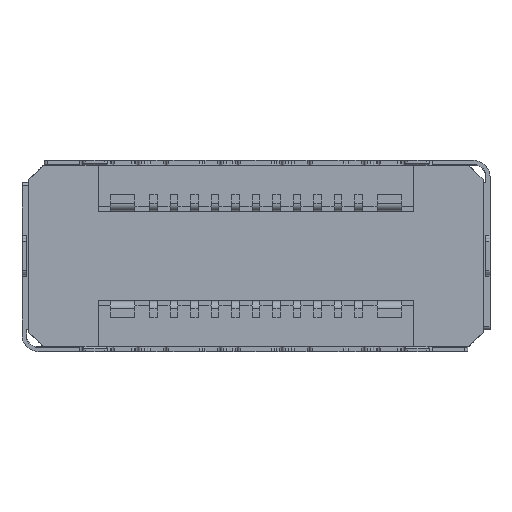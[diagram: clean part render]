
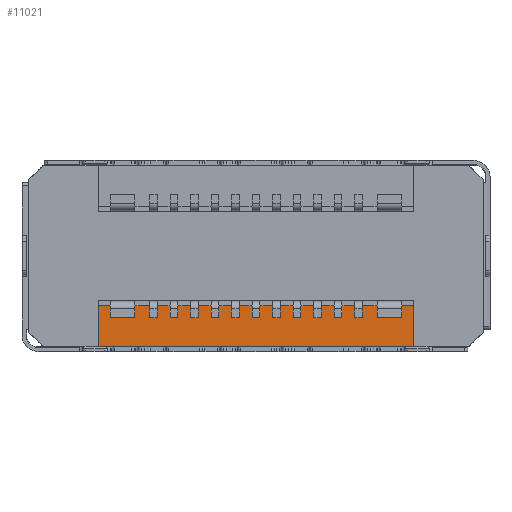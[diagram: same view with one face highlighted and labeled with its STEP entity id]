
A CAD part, front view. The second image highlights one B-rep face of the part: STEP entity #11021.
In plain terms, the highlighted planar face has unit normal (0, -1, 0).
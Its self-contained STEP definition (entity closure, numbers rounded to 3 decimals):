
#1488 = PLANE ( 'NONE',  #10599 ) ;
#2849 = DIRECTION ( 'NONE',  ( -1., 0., 0. ) ) ;
#3117 = EDGE_CURVE ( 'NONE', #7361, #12865, #19937, .T. ) ;
#3611 = LINE ( 'NONE', #13396, #4139 ) ;
#3694 = CARTESIAN_POINT ( 'NONE',  ( 4.44, 0.23, -1. ) ) ;
#3700 = CARTESIAN_POINT ( 'NONE',  ( 4.44, 0.23, -1.55 ) ) ;
#4139 = VECTOR ( 'NONE', #6884, 1000. ) ;
#4305 = CARTESIAN_POINT ( 'NONE',  ( -0.94, 0.23, -1. ) ) ;
#4802 = ORIENTED_EDGE ( 'NONE', *, *, #7785, .F. ) ;
#6089 = EDGE_CURVE ( 'NONE', #7361, #8171, #3611, .T. ) ;
#6773 = DIRECTION ( 'NONE',  ( 0., 0., -1. ) ) ;
#6884 = DIRECTION ( 'NONE',  ( 1., 0., 0. ) ) ;
#7288 = ORIENTED_EDGE ( 'NONE', *, *, #10381, .F. ) ;
#7361 = VERTEX_POINT ( 'NONE', #18304 ) ;
#7766 = DIRECTION ( 'NONE',  ( 0., 0., -1. ) ) ;
#7785 = EDGE_CURVE ( 'NONE', #11496, #12865, #15403, .T. ) ;
#8171 = VERTEX_POINT ( 'NONE', #19896 ) ;
#9124 = DIRECTION ( 'NONE',  ( 0., 1., 0. ) ) ;
#9438 = DIRECTION ( 'NONE',  ( 0., 0., -1. ) ) ;
#9539 = CARTESIAN_POINT ( 'NONE',  ( -0.965, 0.23, -1. ) ) ;
#9797 = LINE ( 'NONE', #3694, #18448 ) ;
#9911 = CARTESIAN_POINT ( 'NONE',  ( -0.94, 0.23, -1.55 ) ) ;
#10381 = EDGE_CURVE ( 'NONE', #8171, #11496, #9797, .T. ) ;
#10599 = AXIS2_PLACEMENT_3D ( 'NONE', #9539, #9124, #7766 ) ;
#11021 = ADVANCED_FACE ( 'NONE', ( #13848 ), #1488, .F. ) ;
#11496 = VERTEX_POINT ( 'NONE', #3700 ) ;
#12865 = VERTEX_POINT ( 'NONE', #9911 ) ;
#13396 = CARTESIAN_POINT ( 'NONE',  ( -0.965, 0.23, -0.85 ) ) ;
#13848 = FACE_OUTER_BOUND ( 'NONE', #17614, .T. ) ;
#14906 = ORIENTED_EDGE ( 'NONE', *, *, #3117, .T. ) ;
#15403 = LINE ( 'NONE', #18476, #17667 ) ;
#15479 = ORIENTED_EDGE ( 'NONE', *, *, #6089, .F. ) ;
#17614 = EDGE_LOOP ( 'NONE', ( #15479, #14906, #4802, #7288 ) ) ;
#17667 = VECTOR ( 'NONE', #2849, 1000. ) ;
#18304 = CARTESIAN_POINT ( 'NONE',  ( -0.94, 0.23, -0.85 ) ) ;
#18448 = VECTOR ( 'NONE', #6773, 1000. ) ;
#18476 = CARTESIAN_POINT ( 'NONE',  ( 4.47, 0.23, -1.55 ) ) ;
#19896 = CARTESIAN_POINT ( 'NONE',  ( 4.44, 0.23, -0.85 ) ) ;
#19937 = LINE ( 'NONE', #4305, #20168 ) ;
#20168 = VECTOR ( 'NONE', #9438, 1000. ) ;
